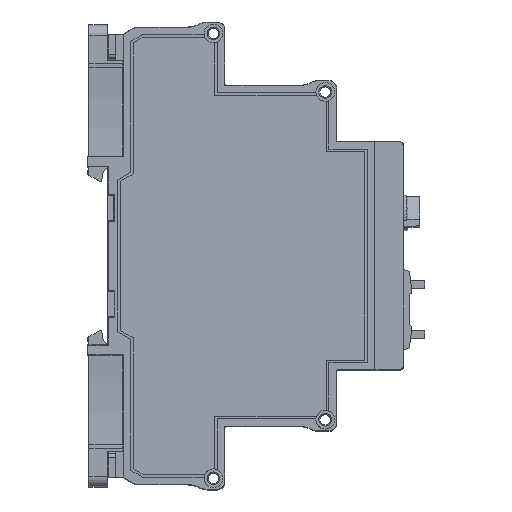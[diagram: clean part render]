
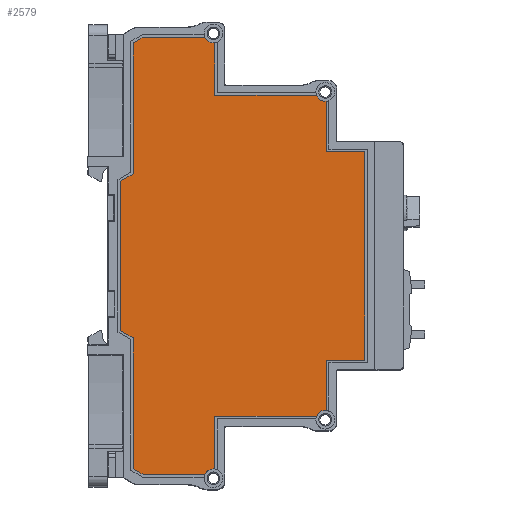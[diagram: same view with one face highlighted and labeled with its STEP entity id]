
A CAD part, top view. The second image highlights one B-rep face of the part: STEP entity #2579.
In plain terms, the highlighted planar face has unit normal (0, 0, 1) as drawn and (1, 0, 0) by its records, which use the part's own axes.
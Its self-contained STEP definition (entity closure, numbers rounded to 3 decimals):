
#2579=ADVANCED_FACE('',(#38054),#38056,.T.);
#38054=FACE_BOUND('',#38055,.T.);
#38055=EDGE_LOOP('',(#66502,#66503,#66504,#66505,#66506,#66507,#66508,#66509,#66510,
#66511,#66512,#66513,#66514,#66515,#66516,#66517,#66518,#66519,#66520,#66521,#66522,
#66523));
#38056=PLANE('',#38057);
#38057=AXIS2_PLACEMENT_3D('',#38058,#38059,#38060);
#38058=CARTESIAN_POINT('',(17.5,0.,0.));
#38059=DIRECTION('',(1.,0.,0.));
#38060=DIRECTION('',(0.,0.,-1.));
#66502=ORIENTED_EDGE('',*,*,#91290,.F.);
#66503=ORIENTED_EDGE('',*,*,#91291,.T.);
#66504=ORIENTED_EDGE('',*,*,#90678,.F.);
#66505=ORIENTED_EDGE('',*,*,#91292,.T.);
#66506=ORIENTED_EDGE('',*,*,#91293,.T.);
#66507=ORIENTED_EDGE('',*,*,#91294,.T.);
#66508=ORIENTED_EDGE('',*,*,#91295,.T.);
#66509=ORIENTED_EDGE('',*,*,#91296,.T.);
#66510=ORIENTED_EDGE('',*,*,#90662,.F.);
#66511=ORIENTED_EDGE('',*,*,#91297,.F.);
#66512=ORIENTED_EDGE('',*,*,#91298,.T.);
#66513=ORIENTED_EDGE('',*,*,#90672,.F.);
#66514=ORIENTED_EDGE('',*,*,#91299,.T.);
#66515=ORIENTED_EDGE('',*,*,#91300,.F.);
#66516=ORIENTED_EDGE('',*,*,#91301,.T.);
#66517=ORIENTED_EDGE('',*,*,#91302,.T.);
#66518=ORIENTED_EDGE('',*,*,#91303,.T.);
#66519=ORIENTED_EDGE('',*,*,#91304,.T.);
#66520=ORIENTED_EDGE('',*,*,#91305,.T.);
#66521=ORIENTED_EDGE('',*,*,#91306,.F.);
#66522=ORIENTED_EDGE('',*,*,#91307,.T.);
#66523=ORIENTED_EDGE('',*,*,#90688,.F.);
#90662=EDGE_CURVE('',#101851,#101836,#101853,.T.);
#90672=EDGE_CURVE('',#101871,#101856,#101873,.T.);
#90678=EDGE_CURVE('',#101883,#101885,#101886,.T.);
#90688=EDGE_CURVE('',#101903,#101905,#101906,.T.);
#91290=EDGE_CURVE('',#103003,#101903,#103004,.T.);
#91291=EDGE_CURVE('',#103003,#101885,#103005,.T.);
#91292=EDGE_CURVE('',#101883,#103006,#103007,.T.);
#91293=EDGE_CURVE('',#103006,#103008,#103009,.T.);
#91294=EDGE_CURVE('',#103008,#103010,#103011,.T.);
#91295=EDGE_CURVE('',#103010,#103012,#103013,.T.);
#91296=EDGE_CURVE('',#103012,#101836,#103014,.T.);
#91297=EDGE_CURVE('',#103015,#101851,#103016,.T.);
#91298=EDGE_CURVE('',#103015,#101856,#103017,.T.);
#91299=EDGE_CURVE('',#101871,#103018,#103019,.T.);
#91300=EDGE_CURVE('',#103020,#103018,#103021,.T.);
#91301=EDGE_CURVE('',#103020,#103022,#103023,.T.);
#91302=EDGE_CURVE('',#103022,#103024,#103025,.T.);
#91303=EDGE_CURVE('',#103024,#103026,#103027,.T.);
#91304=EDGE_CURVE('',#103026,#103028,#103029,.T.);
#91305=EDGE_CURVE('',#103028,#103030,#103031,.T.);
#91306=EDGE_CURVE('',#103032,#103030,#103033,.T.);
#91307=EDGE_CURVE('',#103032,#101905,#103034,.T.);
#101836=VERTEX_POINT('',#120909);
#101851=VERTEX_POINT('',#120942);
#101853=CIRCLE('',#120946,1.85);
#101856=VERTEX_POINT('',#120955);
#101871=VERTEX_POINT('',#120988);
#101873=CIRCLE('',#120992,1.85);
#101883=VERTEX_POINT('',#121016);
#101885=VERTEX_POINT('',#121020);
#101886=CIRCLE('',#121021,1.85);
#101903=VERTEX_POINT('',#121062);
#101905=VERTEX_POINT('',#121066);
#101906=CIRCLE('',#121067,1.85);
#103003=VERTEX_POINT('',#123394);
#103004=LINE('',#123395,#123396);
#103005=LINE('',#123398,#123399);
#103006=VERTEX_POINT('',#123401);
#103007=LINE('',#123402,#123403);
#103008=VERTEX_POINT('',#123405);
#103009=LINE('',#123406,#123407);
#103010=VERTEX_POINT('',#123409);
#103011=LINE('',#123410,#123411);
#103012=VERTEX_POINT('',#123413);
#103013=LINE('',#123414,#123415);
#103014=LINE('',#123417,#123418);
#103015=VERTEX_POINT('',#123420);
#103016=LINE('',#123421,#123422);
#103017=LINE('',#123424,#123425);
#103018=VERTEX_POINT('',#123427);
#103019=LINE('',#123428,#123429);
#103020=VERTEX_POINT('',#123431);
#103021=LINE('',#123432,#123433);
#103022=VERTEX_POINT('',#123435);
#103023=LINE('',#123436,#123437);
#103024=VERTEX_POINT('',#123439);
#103025=LINE('',#123440,#123441);
#103026=VERTEX_POINT('',#123443);
#103027=LINE('',#123444,#123445);
#103028=VERTEX_POINT('',#123447);
#103029=LINE('',#123448,#123449);
#103030=VERTEX_POINT('',#123451);
#103031=LINE('',#123452,#123453);
#103032=VERTEX_POINT('',#123455);
#103033=LINE('',#123456,#123457);
#103034=LINE('',#123459,#123460);
#120909=CARTESIAN_POINT('',(17.5,-30.541,38.985));
#120942=CARTESIAN_POINT('',(17.5,-31.7,37.015));
#120946=AXIS2_PLACEMENT_3D('',#120947,#120948,#120949);
#120947=CARTESIAN_POINT('',(17.5,-32.375,38.738));
#120948=DIRECTION('',(1.,0.,0.));
#120949=DIRECTION('',(0.,0.365,-0.931));
#120955=CARTESIAN_POINT('',(17.5,-42.103,16.897));
#120988=CARTESIAN_POINT('',(17.5,-43.2,14.953));
#120992=AXIS2_PLACEMENT_3D('',#120993,#120994,#120995);
#120993=CARTESIAN_POINT('',(17.5,-43.937,16.65));
#120994=DIRECTION('',(1.,0.,0.));
#120995=DIRECTION('',(0.,0.398,-0.917));
#121016=CARTESIAN_POINT('',(17.5,30.541,38.985));
#121020=CARTESIAN_POINT('',(17.5,31.7,37.015));
#121021=AXIS2_PLACEMENT_3D('',#121022,#121023,#121024);
#121022=CARTESIAN_POINT('',(17.5,32.375,38.738));
#121023=DIRECTION('',(1.,0.,0.));
#121024=DIRECTION('',(0.,-0.991,0.134));
#121062=CARTESIAN_POINT('',(17.5,42.103,16.897));
#121066=CARTESIAN_POINT('',(17.5,43.2,14.953));
#121067=AXIS2_PLACEMENT_3D('',#121068,#121069,#121070);
#121068=CARTESIAN_POINT('',(17.5,43.937,16.65));
#121069=DIRECTION('',(1.,0.,0.));
#121070=DIRECTION('',(0.,-0.991,0.134));
#123394=CARTESIAN_POINT('',(17.5,31.7,16.897));
#123395=CARTESIAN_POINT('',(17.5,31.7,16.897));
#123396=VECTOR('',#123397,1.);
#123397=DIRECTION('',(0.,1.,0.));
#123398=CARTESIAN_POINT('',(17.5,31.7,16.897));
#123399=VECTOR('',#123400,1.);
#123400=DIRECTION('',(0.,0.,1.));
#123401=CARTESIAN_POINT('',(17.5,20.6,38.985));
#123402=CARTESIAN_POINT('',(17.5,30.541,38.985));
#123403=VECTOR('',#123404,1.);
#123404=DIRECTION('',(0.,-1.,0.));
#123405=CARTESIAN_POINT('',(17.5,20.6,46.53));
#123406=CARTESIAN_POINT('',(17.5,20.6,38.985));
#123407=VECTOR('',#123408,1.);
#123408=DIRECTION('',(0.,0.,1.));
#123409=CARTESIAN_POINT('',(17.5,-20.6,46.53));
#123410=CARTESIAN_POINT('',(17.5,20.6,46.53));
#123411=VECTOR('',#123412,1.);
#123412=DIRECTION('',(0.,-1.,0.));
#123413=CARTESIAN_POINT('',(17.5,-20.6,38.985));
#123414=CARTESIAN_POINT('',(17.5,-20.6,46.53));
#123415=VECTOR('',#123416,1.);
#123416=DIRECTION('',(0.,0.,-1.));
#123417=CARTESIAN_POINT('',(17.5,-20.6,38.985));
#123418=VECTOR('',#123419,1.);
#123419=DIRECTION('',(0.,-1.,0.));
#123420=CARTESIAN_POINT('',(17.5,-31.7,16.897));
#123421=CARTESIAN_POINT('',(17.5,-31.7,16.897));
#123422=VECTOR('',#123423,1.);
#123423=DIRECTION('',(0.,0.,1.));
#123424=CARTESIAN_POINT('',(17.5,-31.7,16.897));
#123425=VECTOR('',#123426,1.);
#123426=DIRECTION('',(0.,-1.,0.));
#123427=CARTESIAN_POINT('',(17.5,-43.2,2.761));
#123428=CARTESIAN_POINT('',(17.5,-43.2,14.953));
#123429=VECTOR('',#123430,1.);
#123430=DIRECTION('',(0.,0.,-1.));
#123431=CARTESIAN_POINT('',(17.5,-42.068,0.8));
#123432=CARTESIAN_POINT('',(17.5,-42.068,0.8));
#123433=VECTOR('',#123434,1.);
#123434=DIRECTION('',(0.,-0.5,0.866));
#123435=CARTESIAN_POINT('',(17.5,-16.211,0.8));
#123436=CARTESIAN_POINT('',(17.5,-42.068,0.8));
#123437=VECTOR('',#123438,1.);
#123438=DIRECTION('',(0.,1.,0.));
#123439=CARTESIAN_POINT('',(17.5,-14.768,-1.7));
#123440=CARTESIAN_POINT('',(17.5,-16.211,0.8));
#123441=VECTOR('',#123442,1.);
#123442=DIRECTION('',(0.,0.5,-0.866));
#123443=CARTESIAN_POINT('',(17.5,14.768,-1.7));
#123444=CARTESIAN_POINT('',(17.5,-14.768,-1.7));
#123445=VECTOR('',#123446,1.);
#123446=DIRECTION('',(0.,1.,0.));
#123447=CARTESIAN_POINT('',(17.5,16.211,0.8));
#123448=CARTESIAN_POINT('',(17.5,14.768,-1.7));
#123449=VECTOR('',#123450,1.);
#123450=DIRECTION('',(0.,0.5,0.866));
#123451=CARTESIAN_POINT('',(17.5,42.068,0.8));
#123452=CARTESIAN_POINT('',(17.5,16.211,0.8));
#123453=VECTOR('',#123454,1.);
#123454=DIRECTION('',(0.,1.,0.));
#123455=CARTESIAN_POINT('',(17.5,43.2,2.761));
#123456=CARTESIAN_POINT('',(17.5,43.2,2.761));
#123457=VECTOR('',#123458,1.);
#123458=DIRECTION('',(0.,-0.5,-0.866));
#123459=CARTESIAN_POINT('',(17.5,43.2,2.761));
#123460=VECTOR('',#123461,1.);
#123461=DIRECTION('',(0.,0.,1.));
